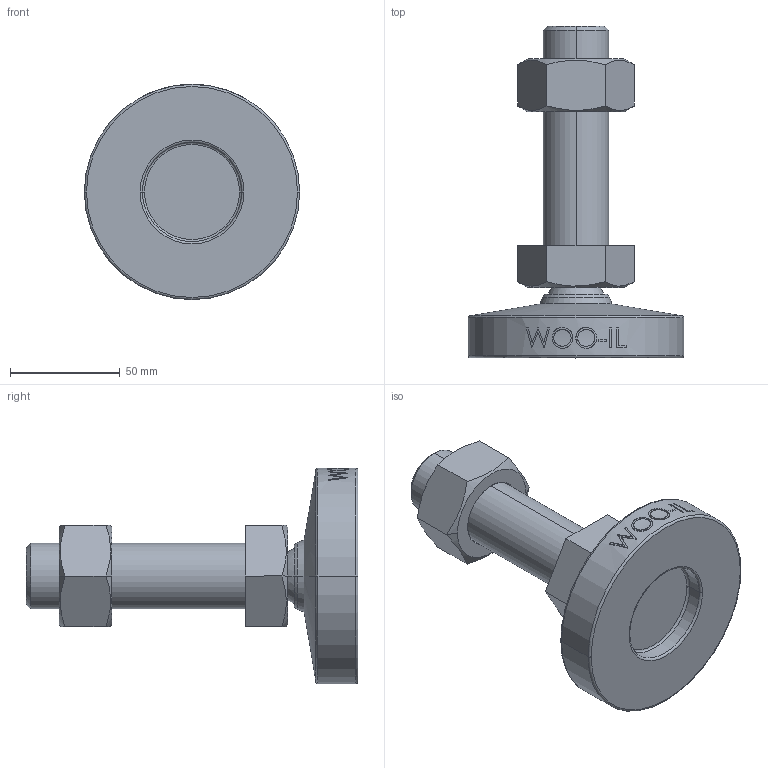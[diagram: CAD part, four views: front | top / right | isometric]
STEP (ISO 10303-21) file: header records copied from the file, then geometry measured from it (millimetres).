
FILE_DESCRIPTION (( 'STEP AP214' ), '1' );
FILE_NAME ('MFN98-M30-100.step', '2021-01-19T06:31:50', ( '' ), ( '' ), 'SwSTEP 2.0', 'SolidWorks 2019', '' );
FILE_SCHEMA (( 'AUTOMOTIVE_DESIGN' ));
Length unit declared in the file: millimetre
Products named in the file (2): MFN98-M30-100
Bounding box: 98 x 151 x 98 mm (x, y, z)
Volume: 286638.1 mm3; surface area: 45372.1 mm2
Topology: 2 solids, 2 shells, 107 faces, 247 edges, 156 vertices
Faces by surface type: plane 47, cone 18, cylinder 16, bspline 16, torus 8, sphere 2
Entity records: 4647 total; most frequent: CARTESIAN_POINT 2280, ORIENTED_EDGE 494, DIRECTION 447, EDGE_CURVE 247, AXIS2_PLACEMENT_3D 173, VERTEX_POINT 156, EDGE_LOOP 121, ADVANCED_FACE 107
